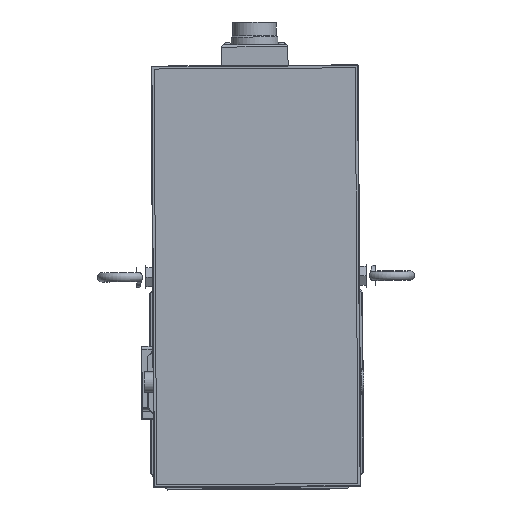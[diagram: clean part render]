
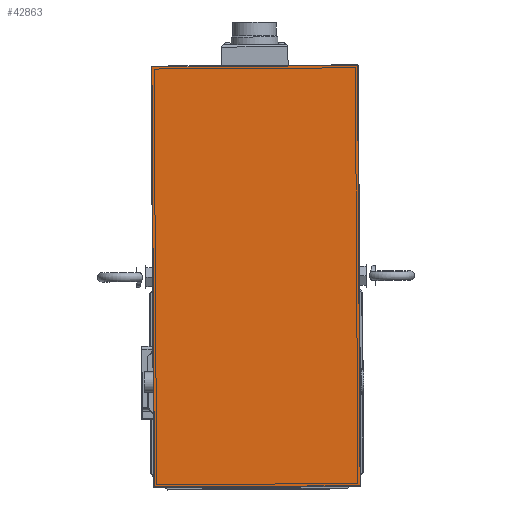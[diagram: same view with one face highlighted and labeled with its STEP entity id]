
A CAD part, top view. The second image highlights one B-rep face of the part: STEP entity #42863.
In plain terms, the highlighted planar face has unit normal (0, 0, 1).
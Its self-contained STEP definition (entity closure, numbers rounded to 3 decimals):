
#2209=PLANE('',#46685);
#6398=FACE_OUTER_BOUND('',#8987,.T.);
#8987=EDGE_LOOP('',(#36264,#36265,#36266,#36267));
#14196=LINE('',#81613,#17174);
#14197=LINE('',#81615,#17175);
#14198=LINE('',#81617,#17176);
#14199=LINE('',#81618,#17177);
#17174=VECTOR('',#56219,10.);
#17175=VECTOR('',#56220,10.);
#17176=VECTOR('',#56221,10.);
#17177=VECTOR('',#56222,10.);
#20973=VERTEX_POINT('',#81611);
#20974=VERTEX_POINT('',#81612);
#20975=VERTEX_POINT('',#81614);
#20976=VERTEX_POINT('',#81616);
#26343=EDGE_CURVE('',#20973,#20974,#14196,.T.);
#26344=EDGE_CURVE('',#20975,#20973,#14197,.T.);
#26345=EDGE_CURVE('',#20976,#20975,#14198,.T.);
#26346=EDGE_CURVE('',#20974,#20976,#14199,.T.);
#36264=ORIENTED_EDGE('',*,*,#26343,.F.);
#36265=ORIENTED_EDGE('',*,*,#26344,.F.);
#36266=ORIENTED_EDGE('',*,*,#26345,.F.);
#36267=ORIENTED_EDGE('',*,*,#26346,.F.);
#42863=ADVANCED_FACE('',(#6398),#2209,.T.);
#46685=AXIS2_PLACEMENT_3D('',#81610,#56217,#56218);
#56217=DIRECTION('center_axis',(0.,0.,
1.));
#56218=DIRECTION('ref_axis',(0.006,-1.,0.));
#56219=DIRECTION('',(-0.006,1.,0.));
#56220=DIRECTION('',(-1.,-0.006,0.));
#56221=DIRECTION('',(0.006,-1.,0.));
#56222=DIRECTION('',(1.,0.006,0.));
#81610=CARTESIAN_POINT('Origin',(68.928,-69.579,661.));
#81611=CARTESIAN_POINT('',(-69.56,-71.928,661.));
#81612=CARTESIAN_POINT('',(-71.314,214.067,661.));
#81613=CARTESIAN_POINT('',(-69.569,-70.428,661.));
#81614=CARTESIAN_POINT('',(70.437,-71.069,661.));
#81615=CARTESIAN_POINT('',(34.688,-71.289,661.));
#81616=CARTESIAN_POINT('',(68.683,214.925,661.));
#81617=CARTESIAN_POINT('',(70.428,-69.569,661.));
#81618=CARTESIAN_POINT('',(32.934,214.706,661.));
